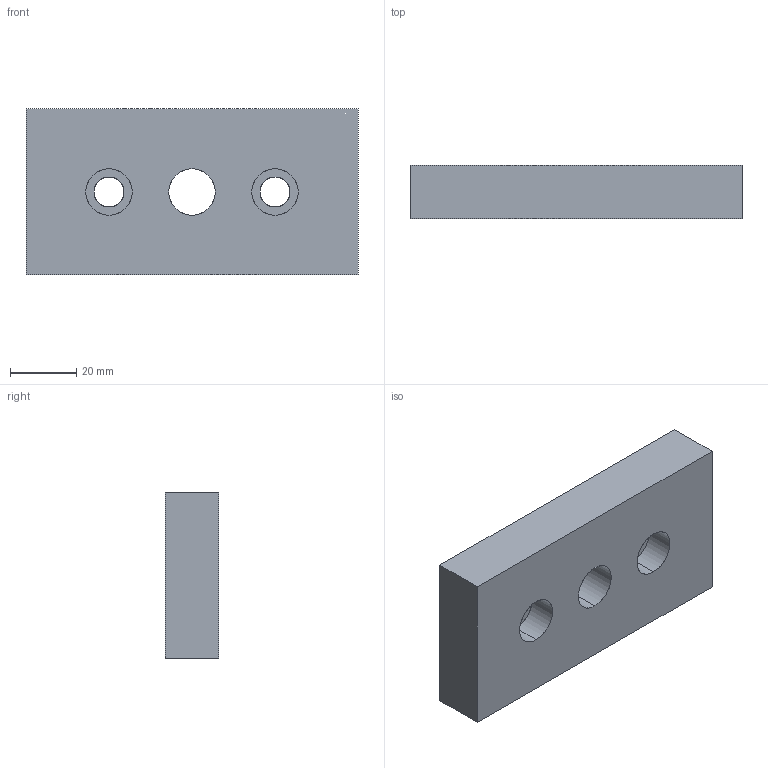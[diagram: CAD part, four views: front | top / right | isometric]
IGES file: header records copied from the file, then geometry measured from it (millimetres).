
Start section: SolidWorks IGES file using analytic representation for surfaces
Global section: file name: C:\Users\sr-d11\Desktop\ホームページ用\IGES\J5B10\J5B10.IGS; native system: SolidWorks 2014; preprocessor: SolidWorks 2014; author: sr-d11; date: 180829.132342; units: millimetre
Bounding box: 100 x 16 x 50 mm (x, y, z)
Surface area: 16116.3 mm2 (no closed solid volume)
Topology: 0 solids, 0 shells, 18 faces, 384 edges, 384 vertices
Faces by surface type: revolution 10, bspline 8
